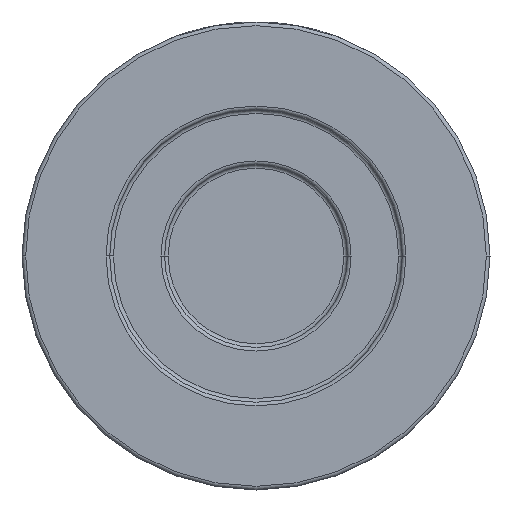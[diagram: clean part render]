
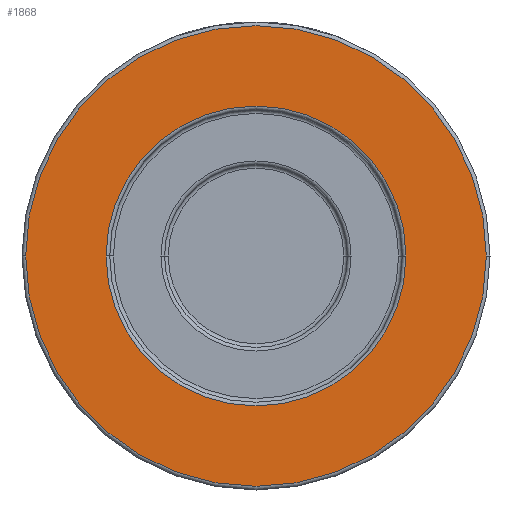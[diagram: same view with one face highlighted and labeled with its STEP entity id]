
A CAD part, front view. The second image highlights one B-rep face of the part: STEP entity #1868.
In plain terms, the highlighted planar face has unit normal (0, -1, 0).
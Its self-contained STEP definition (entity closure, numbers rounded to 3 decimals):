
#65 = CIRCLE ( 'NONE', #4244, 41. ) ;
#194 = EDGE_CURVE ( 'NONE', #4693, #880, #4625, .T. ) ;
#313 = DIRECTION ( 'NONE',  ( 1., 0., 0. ) ) ;
#346 = DIRECTION ( 'NONE',  ( 1., 0., 0. ) ) ;
#382 = ORIENTED_EDGE ( 'NONE', *, *, #3869, .T. ) ;
#539 = CIRCLE ( 'NONE', #1172, 41. ) ;
#559 = DIRECTION ( 'NONE',  ( 0., 1., 0. ) ) ;
#568 = ORIENTED_EDGE ( 'NONE', *, *, #4295, .T. ) ;
#578 = EDGE_CURVE ( 'NONE', #1948, #1944, #65, .T. ) ;
#793 = CARTESIAN_POINT ( 'NONE',  ( 0., -45., 0. ) ) ;
#880 = VERTEX_POINT ( 'NONE', #4795 ) ;
#1090 = DIRECTION ( 'NONE',  ( 0., 1., 0. ) ) ;
#1109 = EDGE_LOOP ( 'NONE', ( #382, #4609 ) ) ;
#1172 = AXIS2_PLACEMENT_3D ( 'NONE', #3504, #559, #2445 ) ;
#1455 = PLANE ( 'NONE',  #4492 ) ;
#1622 = AXIS2_PLACEMENT_3D ( 'NONE', #2120, #4005, #346 ) ;
#1812 = FACE_OUTER_BOUND ( 'NONE', #1109, .T. ) ;
#1868 = ADVANCED_FACE ( 'NONE', ( #4782, #1812 ), #1455, .T. ) ;
#1944 = VERTEX_POINT ( 'NONE', #2457 ) ;
#1948 = VERTEX_POINT ( 'NONE', #3956 ) ;
#2120 = CARTESIAN_POINT ( 'NONE',  ( 0., -45., 0. ) ) ;
#2171 = CARTESIAN_POINT ( 'NONE',  ( -63., -45., 0. ) ) ;
#2445 = DIRECTION ( 'NONE',  ( 1., 0., 0. ) ) ;
#2457 = CARTESIAN_POINT ( 'NONE',  ( -41., -45., 0. ) ) ;
#2484 = DIRECTION ( 'NONE',  ( 0., -1., 0. ) ) ;
#2558 = CARTESIAN_POINT ( 'NONE',  ( 64., -45., 0. ) ) ;
#2792 = EDGE_LOOP ( 'NONE', ( #4626, #568 ) ) ;
#2912 = DIRECTION ( 'NONE',  ( 0., -1., 0. ) ) ;
#3504 = CARTESIAN_POINT ( 'NONE',  ( 0., -45., 0. ) ) ;
#3869 = EDGE_CURVE ( 'NONE', #880, #4693, #4118, .T. ) ;
#3956 = CARTESIAN_POINT ( 'NONE',  ( 41., -45., 0. ) ) ;
#4005 = DIRECTION ( 'NONE',  ( 0., -1., 0. ) ) ;
#4118 = CIRCLE ( 'NONE', #1622, 63. ) ;
#4244 = AXIS2_PLACEMENT_3D ( 'NONE', #793, #1090, #313 ) ;
#4295 = EDGE_CURVE ( 'NONE', #1944, #1948, #539, .T. ) ;
#4320 = AXIS2_PLACEMENT_3D ( 'NONE', #4433, #2912, #4459 ) ;
#4369 = DIRECTION ( 'NONE',  ( 1., 0., 0. ) ) ;
#4433 = CARTESIAN_POINT ( 'NONE',  ( 0., -45., 0. ) ) ;
#4459 = DIRECTION ( 'NONE',  ( 1., 0., 0. ) ) ;
#4492 = AXIS2_PLACEMENT_3D ( 'NONE', #2558, #2484, #4369 ) ;
#4609 = ORIENTED_EDGE ( 'NONE', *, *, #194, .T. ) ;
#4625 = CIRCLE ( 'NONE', #4320, 63. ) ;
#4626 = ORIENTED_EDGE ( 'NONE', *, *, #578, .T. ) ;
#4693 = VERTEX_POINT ( 'NONE', #2171 ) ;
#4782 = FACE_BOUND ( 'NONE', #2792, .T. ) ;
#4795 = CARTESIAN_POINT ( 'NONE',  ( 63., -45., 0. ) ) ;
